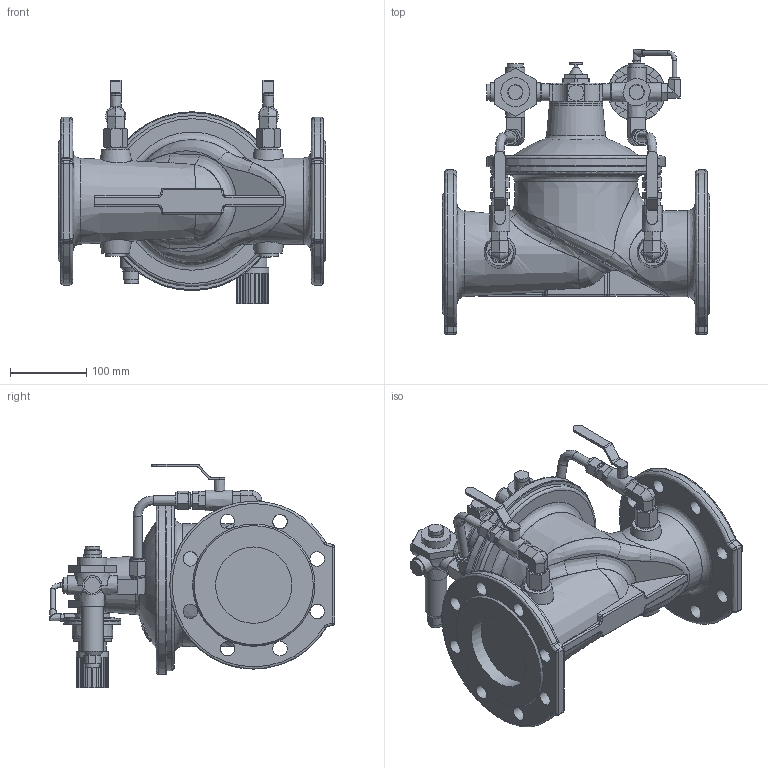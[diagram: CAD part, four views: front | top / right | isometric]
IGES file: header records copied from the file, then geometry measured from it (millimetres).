
Start section: SolidWorks IGES file using analytic representation for surfaces
Global section: file name: \\avksan2\techshare\PBM outline export from Enovia\O_859_00_DN100_1XXXX00_REV01.igs; native system: SolidWorks 2019; preprocessor: SolidWorks 2019; author: pbm; date: 201117.125642; units: millimetre
Bounding box: 350 x 373.83 x 292.79 mm (x, y, z)
Surface area: 532417.8 mm2 (no closed solid volume)
Topology: 0 solids, 0 shells, 844 faces, 4049 edges, 3924 vertices
Faces by surface type: bspline 542, revolution 302
